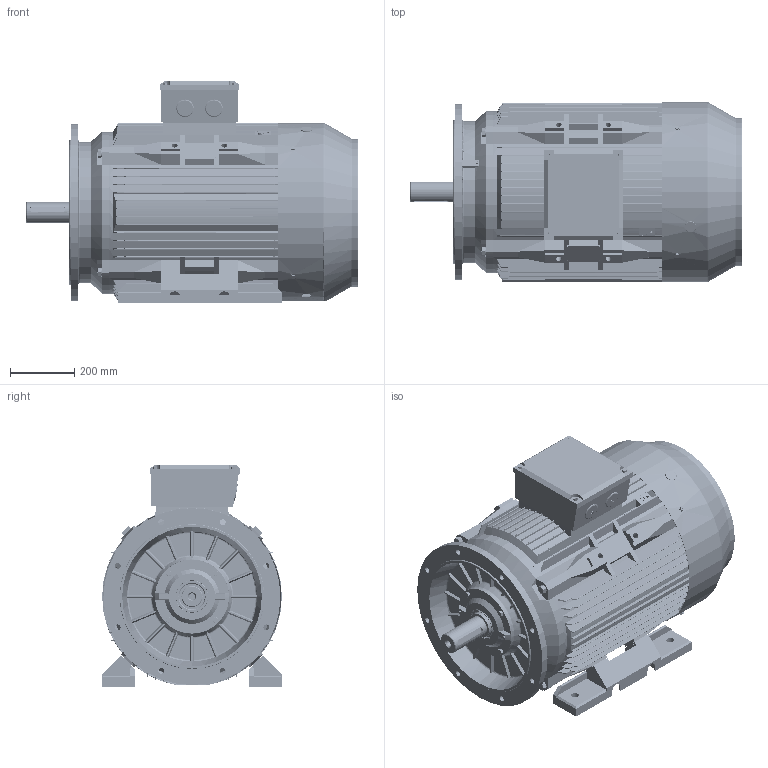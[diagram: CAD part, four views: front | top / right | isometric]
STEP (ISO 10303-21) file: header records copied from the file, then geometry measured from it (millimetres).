
FILE_DESCRIPTION (( 'STEP AP203' ), '1' );
FILE_NAME ('TC 280M-2 B35 外形图.STEP', '2013-06-27T06:23:03', ( '微软用户' ), ( '微软中国' ), 'SwSTEP 2.0', 'SolidWorks 2008', '' );
FILE_SCHEMA (( 'CONFIG_CONTROL_DESIGN' ));
Products named in the file (23): TC 280M-2 转轴_默认; TC 280M-2 B35 俋倛芞; TC 280M-2 转子_默认; TC 280M接线盒盖_默认; TC 280 风罩_默认; M16-50_默认; M8-20_默认; 螺塞M50_默认; 扣塞_默认; TC 280M B5机座_默认; TC280 B3后端盖(170)_默认; TC 280 轴承外盖DE_默认; TC 280 轴承外盖NDE_默认; 6316_默认; 油封80-100-10_默认; TC280M底脚_默认; TC 280M接线盒座_默认; M10-80_默认; 10_默认; 16_默认; M8-12_默认; 铜油嘴_默认; TC 280 B5法兰_默认
Assembly tree (43 placements, depth 3):
  TC 280M-2 B35 俋倛芞
    M16-50_默认  x4
    TC 280M接线盒座_默认
    TC 280 风罩_默认
    M10-80_默认  x4
    TC 280 轴承外盖NDE_默认
    TC 280M-2 转子_默认
      6316_默认  x2
      TC 280M-2 转轴_默认
    M8-12_默认  x4
    M8-20_默认  x4
    油封80-100-10_默认
    10_默认  x4
    16_默认  x4
    螺塞M50_默认  x2
    TC280M底脚_默认  x2
    TC 280 B5法兰_默认
    TC 280 轴承外盖DE_默认
    铜油嘴_默认
    扣塞_默认
    TC 280M接线盒盖_默认
    TC 280M B5机座_默认
    TC280 B3后端盖(170)_默认
Bounding box: 1032.2 x 559 x 688.14 mm (x, y, z)
Volume: 41306174.4 mm3; surface area: 7482293.7 mm2
Topology: 43 solids, 44 shells, 9953 faces, 29203 edges, 19332 vertices
Faces by surface type: plane 4984, cylinder 4263, cone 298, torus 231, bspline 115, sphere 62
Entity records: 333166 total; most frequent: CARTESIAN_POINT 73428, ORIENTED_EDGE 54704, DIRECTION 53036, EDGE_CURVE 27352, VERTEX_POINT 18147, AXIS2_PLACEMENT_3D 18051, LINE 16934, VECTOR 16934
